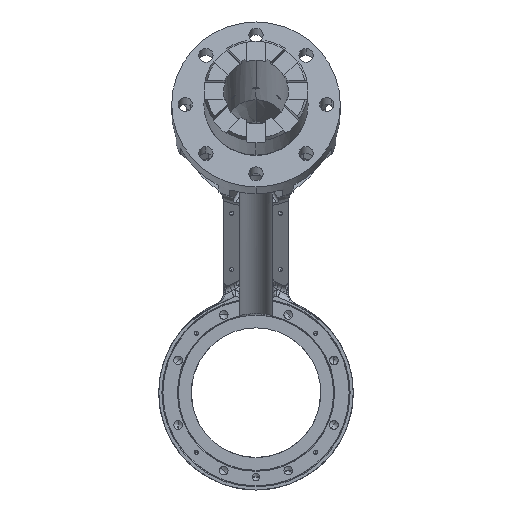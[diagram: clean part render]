
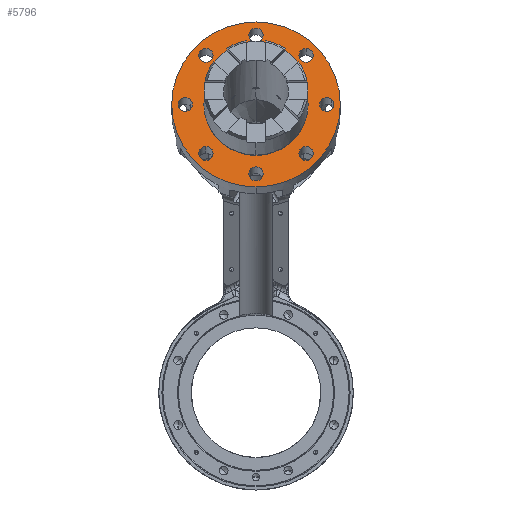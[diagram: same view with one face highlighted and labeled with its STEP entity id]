
A CAD part, left-side view. The second image highlights one B-rep face of the part: STEP entity #5796.
In plain terms, the highlighted planar face has unit normal (-0.978, 0, 0.208).
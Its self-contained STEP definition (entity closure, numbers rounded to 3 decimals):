
#4915=AXIS2_PLACEMENT_3D('Circle Axis2P3D',#4913,#4914,$) ;
#5623=AXIS2_PLACEMENT_3D('Plane Axis2P3D',#5620,#5621,#5622) ;
#5627=AXIS2_PLACEMENT_3D('Circle Axis2P3D',#5625,#5626,$) ;
#5636=AXIS2_PLACEMENT_3D('Circle Axis2P3D',#5634,#5635,$) ;
#5645=AXIS2_PLACEMENT_3D('Circle Axis2P3D',#5643,#5644,$) ;
#5654=AXIS2_PLACEMENT_3D('Circle Axis2P3D',#5652,#5653,$) ;
#5663=AXIS2_PLACEMENT_3D('Circle Axis2P3D',#5661,#5662,$) ;
#5672=AXIS2_PLACEMENT_3D('Circle Axis2P3D',#5670,#5671,$) ;
#5681=AXIS2_PLACEMENT_3D('Circle Axis2P3D',#5679,#5680,$) ;
#5690=AXIS2_PLACEMENT_3D('Circle Axis2P3D',#5688,#5689,$) ;
#5699=AXIS2_PLACEMENT_3D('Circle Axis2P3D',#5697,#5698,$) ;
#5708=AXIS2_PLACEMENT_3D('Circle Axis2P3D',#5706,#5707,$) ;
#5717=AXIS2_PLACEMENT_3D('Circle Axis2P3D',#5715,#5716,$) ;
#5726=AXIS2_PLACEMENT_3D('Circle Axis2P3D',#5724,#5725,$) ;
#5735=AXIS2_PLACEMENT_3D('Circle Axis2P3D',#5733,#5734,$) ;
#5744=AXIS2_PLACEMENT_3D('Circle Axis2P3D',#5742,#5743,$) ;
#5753=AXIS2_PLACEMENT_3D('Circle Axis2P3D',#5751,#5752,$) ;
#5762=AXIS2_PLACEMENT_3D('Circle Axis2P3D',#5760,#5761,$) ;
#5771=AXIS2_PLACEMENT_3D('Circle Axis2P3D',#5769,#5770,$) ;
#5780=AXIS2_PLACEMENT_3D('Circle Axis2P3D',#5778,#5779,$) ;
#5789=AXIS2_PLACEMENT_3D('Circle Axis2P3D',#5787,#5788,$) ;
#4910=CARTESIAN_POINT('Vertex',(-359.154,0.,158.678)) ;
#4913=CARTESIAN_POINT('Axis2P3D Location',(-345.64,0.,222.258)) ;
#4917=CARTESIAN_POINT('Vertex',(-332.126,0.,285.837)) ;
#5620=CARTESIAN_POINT('Axis2P3D Location',(-337.323,0.,261.384)) ;
#5625=CARTESIAN_POINT('Axis2P3D Location',(-345.64,0.,222.258)) ;
#5634=CARTESIAN_POINT('Axis2P3D Location',(-353.674,38.643,184.459)) ;
#5638=CARTESIAN_POINT('Vertex',(-354.818,38.643,179.079)) ;
#5640=CARTESIAN_POINT('Vertex',(-352.531,38.643,189.838)) ;
#5643=CARTESIAN_POINT('Axis2P3D Location',(-353.674,38.643,184.459)) ;
#5652=CARTESIAN_POINT('Axis2P3D Location',(-345.64,0.,222.258)) ;
#5656=CARTESIAN_POINT('Vertex',(-353.998,0.,182.936)) ;
#5658=CARTESIAN_POINT('Vertex',(-337.282,0.,261.579)) ;
#5661=CARTESIAN_POINT('Axis2P3D Location',(-345.64,0.,222.258)) ;
#5670=CARTESIAN_POINT('Axis2P3D Location',(-345.64,54.65,222.258)) ;
#5674=CARTESIAN_POINT('Vertex',(-344.831,50.761,226.062)) ;
#5676=CARTESIAN_POINT('Vertex',(-346.448,58.539,218.453)) ;
#5679=CARTESIAN_POINT('Axis2P3D Location',(-345.64,54.65,222.258)) ;
#5688=CARTESIAN_POINT('Axis2P3D Location',(-337.605,38.643,260.057)) ;
#5692=CARTESIAN_POINT('Vertex',(-337.605,33.143,260.057)) ;
#5694=CARTESIAN_POINT('Vertex',(-337.605,44.143,260.057)) ;
#5697=CARTESIAN_POINT('Axis2P3D Location',(-337.605,38.643,260.057)) ;
#5706=CARTESIAN_POINT('Axis2P3D Location',(-334.277,0.,275.713)) ;
#5710=CARTESIAN_POINT('Vertex',(-335.086,-3.889,271.909)) ;
#5712=CARTESIAN_POINT('Vertex',(-333.469,3.889,279.517)) ;
#5715=CARTESIAN_POINT('Axis2P3D Location',(-334.277,0.,275.713)) ;
#5724=CARTESIAN_POINT('Axis2P3D Location',(-337.605,-38.643,260.057)) ;
#5728=CARTESIAN_POINT('Vertex',(-338.749,-38.643,254.677)) ;
#5730=CARTESIAN_POINT('Vertex',(-336.462,-38.643,265.436)) ;
#5733=CARTESIAN_POINT('Axis2P3D Location',(-337.605,-38.643,260.057)) ;
#5742=CARTESIAN_POINT('Axis2P3D Location',(-345.64,-54.65,222.258)) ;
#5746=CARTESIAN_POINT('Vertex',(-346.448,-50.761,218.453)) ;
#5748=CARTESIAN_POINT('Vertex',(-344.831,-58.539,226.062)) ;
#5751=CARTESIAN_POINT('Axis2P3D Location',(-345.64,-54.65,222.258)) ;
#5760=CARTESIAN_POINT('Axis2P3D Location',(-353.674,-38.643,184.459)) ;
#5764=CARTESIAN_POINT('Vertex',(-353.674,-33.143,184.459)) ;
#5766=CARTESIAN_POINT('Vertex',(-353.674,-44.143,184.459)) ;
#5769=CARTESIAN_POINT('Axis2P3D Location',(-353.674,-38.643,184.459)) ;
#5778=CARTESIAN_POINT('Axis2P3D Location',(-357.002,0.,168.802)) ;
#5782=CARTESIAN_POINT('Vertex',(-356.194,3.889,172.606)) ;
#5784=CARTESIAN_POINT('Vertex',(-357.811,-3.889,164.998)) ;
#5787=CARTESIAN_POINT('Axis2P3D Location',(-357.002,0.,168.802)) ;
#4914=DIRECTION('Axis2P3D Direction',(0.978,0.,-0.208)) ;
#5621=DIRECTION('Axis2P3D Direction',(0.978,0.,-0.208)) ;
#5622=DIRECTION('Axis2P3D XDirection',(0.208,0.,0.978)) ;
#5626=DIRECTION('Axis2P3D Direction',(0.978,0.,-0.208)) ;
#5635=DIRECTION('Axis2P3D Direction',(0.978,0.,-0.208)) ;
#5644=DIRECTION('Axis2P3D Direction',(0.978,0.,-0.208)) ;
#5653=DIRECTION('Axis2P3D Direction',(0.978,0.,-0.208)) ;
#5662=DIRECTION('Axis2P3D Direction',(0.978,0.,-0.208)) ;
#5671=DIRECTION('Axis2P3D Direction',(0.978,0.,-0.208)) ;
#5680=DIRECTION('Axis2P3D Direction',(0.978,0.,-0.208)) ;
#5689=DIRECTION('Axis2P3D Direction',(0.978,0.,-0.208)) ;
#5698=DIRECTION('Axis2P3D Direction',(0.978,0.,-0.208)) ;
#5707=DIRECTION('Axis2P3D Direction',(0.978,0.,-0.208)) ;
#5716=DIRECTION('Axis2P3D Direction',(0.978,0.,-0.208)) ;
#5725=DIRECTION('Axis2P3D Direction',(0.978,0.,-0.208)) ;
#5734=DIRECTION('Axis2P3D Direction',(0.978,0.,-0.208)) ;
#5743=DIRECTION('Axis2P3D Direction',(0.978,0.,-0.208)) ;
#5752=DIRECTION('Axis2P3D Direction',(0.978,0.,-0.208)) ;
#5761=DIRECTION('Axis2P3D Direction',(0.978,0.,-0.208)) ;
#5770=DIRECTION('Axis2P3D Direction',(0.978,0.,-0.208)) ;
#5779=DIRECTION('Axis2P3D Direction',(0.978,0.,-0.208)) ;
#5788=DIRECTION('Axis2P3D Direction',(0.978,0.,-0.208)) ;
#5631=ORIENTED_EDGE('',*,*,#5629,.F.) ;
#5632=ORIENTED_EDGE('',*,*,#4919,.F.) ;
#5649=ORIENTED_EDGE('',*,*,#5642,.T.) ;
#5650=ORIENTED_EDGE('',*,*,#5647,.T.) ;
#5667=ORIENTED_EDGE('',*,*,#5660,.F.) ;
#5668=ORIENTED_EDGE('',*,*,#5665,.F.) ;
#5685=ORIENTED_EDGE('',*,*,#5678,.T.) ;
#5686=ORIENTED_EDGE('',*,*,#5683,.T.) ;
#5703=ORIENTED_EDGE('',*,*,#5696,.T.) ;
#5704=ORIENTED_EDGE('',*,*,#5701,.T.) ;
#5721=ORIENTED_EDGE('',*,*,#5714,.T.) ;
#5722=ORIENTED_EDGE('',*,*,#5719,.T.) ;
#5739=ORIENTED_EDGE('',*,*,#5732,.T.) ;
#5740=ORIENTED_EDGE('',*,*,#5737,.T.) ;
#5757=ORIENTED_EDGE('',*,*,#5750,.T.) ;
#5758=ORIENTED_EDGE('',*,*,#5755,.T.) ;
#5775=ORIENTED_EDGE('',*,*,#5768,.T.) ;
#5776=ORIENTED_EDGE('',*,*,#5773,.T.) ;
#5793=ORIENTED_EDGE('',*,*,#5786,.T.) ;
#5794=ORIENTED_EDGE('',*,*,#5791,.T.) ;
#5651=FACE_BOUND('',#5648,.T.) ;
#5669=FACE_BOUND('',#5666,.T.) ;
#5687=FACE_BOUND('',#5684,.T.) ;
#5705=FACE_BOUND('',#5702,.T.) ;
#5723=FACE_BOUND('',#5720,.T.) ;
#5741=FACE_BOUND('',#5738,.T.) ;
#5759=FACE_BOUND('',#5756,.T.) ;
#5777=FACE_BOUND('',#5774,.T.) ;
#5795=FACE_BOUND('',#5792,.T.) ;
#5796=ADVANCED_FACE('Corps principal',(#5633,#5651,#5669,#5687,#5705,#5723,#5741,#5759,#5777,#5795),#5624,.F.) ;
#4916=CIRCLE('generated circle',#4915,65.) ;
#5628=CIRCLE('generated circle',#5627,65.) ;
#5637=CIRCLE('generated circle',#5636,5.5) ;
#5646=CIRCLE('generated circle',#5645,5.5) ;
#5655=CIRCLE('generated circle',#5654,40.2) ;
#5664=CIRCLE('generated circle',#5663,40.2) ;
#5673=CIRCLE('generated circle',#5672,5.5) ;
#5682=CIRCLE('generated circle',#5681,5.5) ;
#5691=CIRCLE('generated circle',#5690,5.5) ;
#5700=CIRCLE('generated circle',#5699,5.5) ;
#5709=CIRCLE('generated circle',#5708,5.5) ;
#5718=CIRCLE('generated circle',#5717,5.5) ;
#5727=CIRCLE('generated circle',#5726,5.5) ;
#5736=CIRCLE('generated circle',#5735,5.5) ;
#5745=CIRCLE('generated circle',#5744,5.5) ;
#5754=CIRCLE('generated circle',#5753,5.5) ;
#5763=CIRCLE('generated circle',#5762,5.5) ;
#5772=CIRCLE('generated circle',#5771,5.5) ;
#5781=CIRCLE('generated circle',#5780,5.5) ;
#5790=CIRCLE('generated circle',#5789,5.5) ;
#4919=EDGE_CURVE('',#4911,#4918,#4916,.T.) ;
#5629=EDGE_CURVE('',#4918,#4911,#5628,.T.) ;
#5642=EDGE_CURVE('',#5639,#5641,#5637,.T.) ;
#5647=EDGE_CURVE('',#5641,#5639,#5646,.T.) ;
#5660=EDGE_CURVE('',#5657,#5659,#5655,.F.) ;
#5665=EDGE_CURVE('',#5659,#5657,#5664,.F.) ;
#5678=EDGE_CURVE('',#5675,#5677,#5673,.T.) ;
#5683=EDGE_CURVE('',#5677,#5675,#5682,.T.) ;
#5696=EDGE_CURVE('',#5693,#5695,#5691,.T.) ;
#5701=EDGE_CURVE('',#5695,#5693,#5700,.T.) ;
#5714=EDGE_CURVE('',#5711,#5713,#5709,.T.) ;
#5719=EDGE_CURVE('',#5713,#5711,#5718,.T.) ;
#5732=EDGE_CURVE('',#5729,#5731,#5727,.T.) ;
#5737=EDGE_CURVE('',#5731,#5729,#5736,.T.) ;
#5750=EDGE_CURVE('',#5747,#5749,#5745,.T.) ;
#5755=EDGE_CURVE('',#5749,#5747,#5754,.T.) ;
#5768=EDGE_CURVE('',#5765,#5767,#5763,.T.) ;
#5773=EDGE_CURVE('',#5767,#5765,#5772,.T.) ;
#5786=EDGE_CURVE('',#5783,#5785,#5781,.T.) ;
#5791=EDGE_CURVE('',#5785,#5783,#5790,.T.) ;
#5630=EDGE_LOOP('',(#5631,#5632)) ;
#5648=EDGE_LOOP('',(#5649,#5650)) ;
#5666=EDGE_LOOP('',(#5667,#5668)) ;
#5684=EDGE_LOOP('',(#5685,#5686)) ;
#5702=EDGE_LOOP('',(#5703,#5704)) ;
#5720=EDGE_LOOP('',(#5721,#5722)) ;
#5738=EDGE_LOOP('',(#5739,#5740)) ;
#5756=EDGE_LOOP('',(#5757,#5758)) ;
#5774=EDGE_LOOP('',(#5775,#5776)) ;
#5792=EDGE_LOOP('',(#5793,#5794)) ;
#5633=FACE_OUTER_BOUND('',#5630,.T.) ;
#5624=PLANE('',#5623) ;
#4911=VERTEX_POINT('',#4910) ;
#4918=VERTEX_POINT('',#4917) ;
#5639=VERTEX_POINT('',#5638) ;
#5641=VERTEX_POINT('',#5640) ;
#5657=VERTEX_POINT('',#5656) ;
#5659=VERTEX_POINT('',#5658) ;
#5675=VERTEX_POINT('',#5674) ;
#5677=VERTEX_POINT('',#5676) ;
#5693=VERTEX_POINT('',#5692) ;
#5695=VERTEX_POINT('',#5694) ;
#5711=VERTEX_POINT('',#5710) ;
#5713=VERTEX_POINT('',#5712) ;
#5729=VERTEX_POINT('',#5728) ;
#5731=VERTEX_POINT('',#5730) ;
#5747=VERTEX_POINT('',#5746) ;
#5749=VERTEX_POINT('',#5748) ;
#5765=VERTEX_POINT('',#5764) ;
#5767=VERTEX_POINT('',#5766) ;
#5783=VERTEX_POINT('',#5782) ;
#5785=VERTEX_POINT('',#5784) ;
